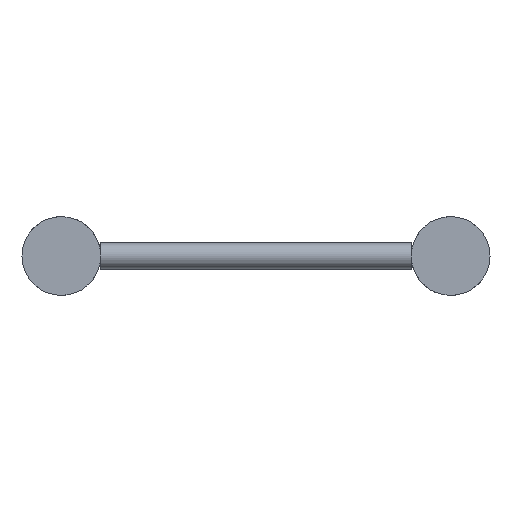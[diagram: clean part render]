
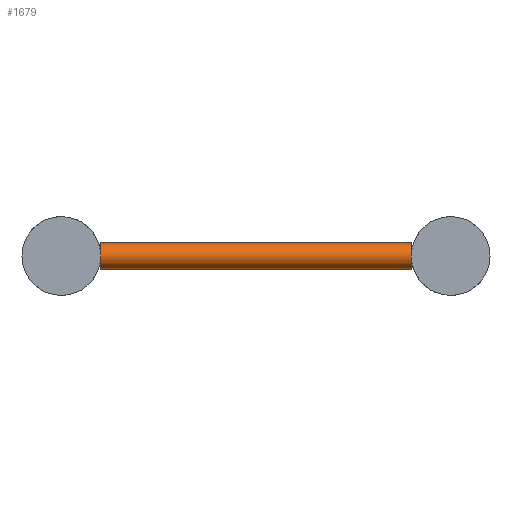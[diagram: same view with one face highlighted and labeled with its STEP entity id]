
A CAD part, left-side view. The second image highlights one B-rep face of the part: STEP entity #1679.
In plain terms, the highlighted cylindrical face has radius 8 mm (diameter 16 mm), a full revolution.
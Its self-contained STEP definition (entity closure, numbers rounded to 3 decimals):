
#325=FACE_BOUND('',#585,.T.);
#460=FACE_OUTER_BOUND('',#584,.T.);
#584=EDGE_LOOP('',(#1281,#1282));
#585=EDGE_LOOP('',(#1283,#1284));
#685=CIRCLE('',#1846,8.);
#686=CIRCLE('',#1848,8.);
#687=CIRCLE('',#1850,8.);
#688=CIRCLE('',#1852,8.);
#817=VERTEX_POINT('',#2915);
#818=VERTEX_POINT('',#2916);
#819=VERTEX_POINT('',#2920);
#820=VERTEX_POINT('',#2921);
#1016=EDGE_CURVE('',#818,#817,#685,.T.);
#1018=EDGE_CURVE('',#820,#819,#686,.T.);
#1019=EDGE_CURVE('',#817,#818,#687,.T.);
#1020=EDGE_CURVE('',#819,#820,#688,.T.);
#1281=ORIENTED_EDGE('',*,*,#1016,.T.);
#1282=ORIENTED_EDGE('',*,*,#1019,.T.);
#1283=ORIENTED_EDGE('',*,*,#1018,.T.);
#1284=ORIENTED_EDGE('',*,*,#1020,.T.);
#1483=CYLINDRICAL_SURFACE('',#1851,8.);
#1679=ADVANCED_FACE('',(#460,#325),#1483,.T.);
#1846=AXIS2_PLACEMENT_3D('',#2918,#2220,#2221);
#1848=AXIS2_PLACEMENT_3D('',#2923,#2225,#2226);
#1850=AXIS2_PLACEMENT_3D('',#2925,#2229,#2230);
#1851=AXIS2_PLACEMENT_3D('',#2926,#2231,#2232);
#1852=AXIS2_PLACEMENT_3D('',#2927,#2233,#2234);
#2220=DIRECTION('center_axis',(0.,1.,0.));
#2221=DIRECTION('ref_axis',(-1.,0.,0.));
#2225=DIRECTION('center_axis',(0.,-1.,0.));
#2226=DIRECTION('ref_axis',(-1.,0.,0.));
#2229=DIRECTION('center_axis',(0.,1.,0.));
#2230=DIRECTION('ref_axis',(-1.,0.,0.));
#2231=DIRECTION('center_axis',(0.,1.,0.));
#2232=DIRECTION('ref_axis',(-1.,0.,0.));
#2233=DIRECTION('center_axis',(0.,-1.,0.));
#2234=DIRECTION('ref_axis',(-1.,0.,0.));
#2915=CARTESIAN_POINT('',(52.,24.15,0.));
#2916=CARTESIAN_POINT('',(68.,24.15,0.));
#2918=CARTESIAN_POINT('Origin',(60.,24.15,0.));
#2920=CARTESIAN_POINT('',(52.,214.85,0.));
#2921=CARTESIAN_POINT('',(68.,214.85,0.));
#2923=CARTESIAN_POINT('Origin',(60.,214.85,0.));
#2925=CARTESIAN_POINT('Origin',(60.,24.15,0.));
#2926=CARTESIAN_POINT('Origin',(60.,119.5,0.));
#2927=CARTESIAN_POINT('Origin',(60.,214.85,0.));
